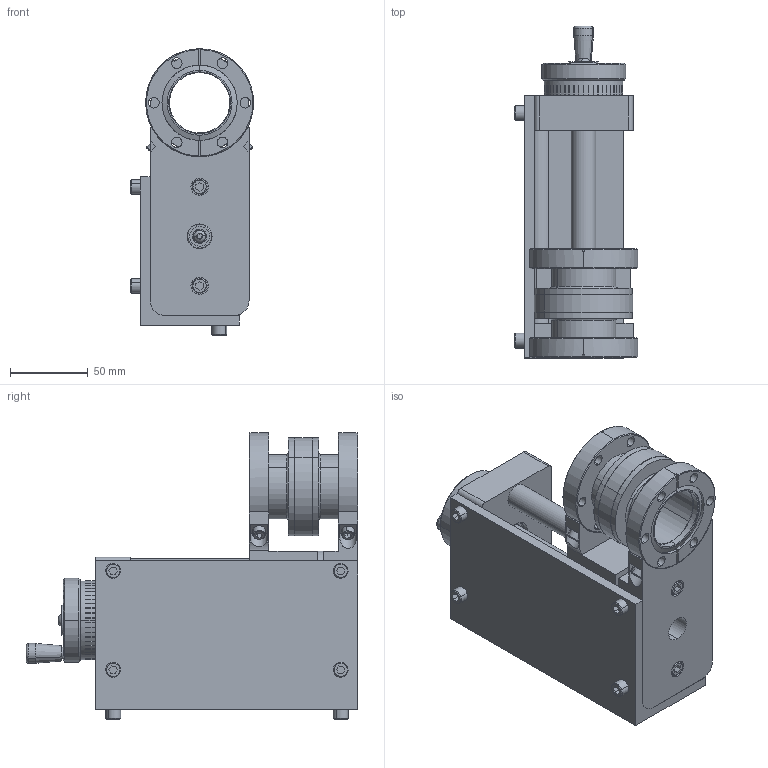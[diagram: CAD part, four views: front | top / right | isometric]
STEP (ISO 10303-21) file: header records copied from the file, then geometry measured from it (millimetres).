
FILE_DESCRIPTION (( 'STEP AP214' ), '1' );
FILE_NAME ('BLT27S-03, BOTH THRU, 10008198.STEP', '2016-09-20T14:45:06', ( 'jvatsvog' ), ( 'Microsoft' ), 'SwSTEP 2.0', 'SolidWorks 2014', '' );
FILE_SCHEMA (( 'AUTOMOTIVE_DESIGN' ));
Length unit declared in the file: inch
Products named in the file (1): BLT27S-03, BOTH THRU, 10008198
Bounding box: 79.12 x 213.07 x 183.9 mm (x, y, z)
Volume: 856941.8 mm3; surface area: 252526.6 mm2
Topology: 52 solids, 52 shells, 1323 faces, 3144 edges, 1979 vertices
Faces by surface type: plane 603, cylinder 486, cone 216, torus 18
Entity records: 56635 total; most frequent: CARTESIAN_POINT 7423, DIRECTION 6866, ORIENTED_EDGE 6136, EDGE_CURVE 3068, AXIS2_PLACEMENT_3D 2552, VERTEX_POINT 1979, LINE 1762, VECTOR 1762
